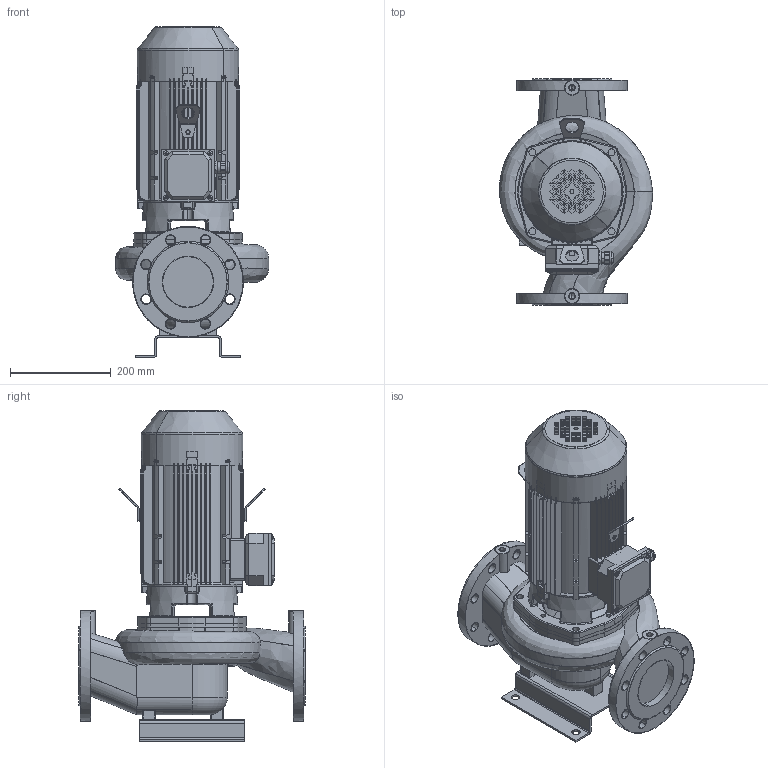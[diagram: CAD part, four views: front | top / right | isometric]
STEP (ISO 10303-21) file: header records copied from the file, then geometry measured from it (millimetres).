
FILE_DESCRIPTION(('STEP AP214'),'1');
FILE_NAME('export.stp','2018-08-14T10:40:46',(' '),(' '),'Spatial InterOp 3D',' ',' ');
FILE_SCHEMA(('AUTOMOTIVE_DESIGN { 1 0 10303 214 1 1 1 1 }'));
Length unit declared in the file: millimetre
Products named in the file (21): 160027; 160005; V_MKP100-2_F19; 160141; 160137; 160138; 160139; 160140; Koura_Ale_M5; Plug_Blind_M20; Sealing_Plug_M20; DIN_7985-M5X8; DIN_7985-M5X12; 160060___; 160059___; 160136; 160134; W_AL11024220KP100; V_TLL65AB80A1102; V_PPAL1102; V_JALKA35973
Assembly tree (24 placements, depth 4):
  W_AL11024220KP100
    V_MKP100-2_F19
      160027
        160005
      160141
        160137
        160138
        160139
        160140
        Koura_Ale_M5
        Plug_Blind_M20
        Sealing_Plug_M20
        DIN_7985-M5X8
        DIN_7985-M5X12  x4
      160060___
      160059___
      160136
      160134  x2
    V_TLL65AB80A1102
    V_PPAL1102
    V_JALKA35973
Bounding box: 304.07 x 450 x 657 mm (x, y, z)
Volume: 3319130.8 mm3; surface area: 2442962.6 mm2
Topology: 21 solids, 22 shells, 2677 faces, 7257 edges, 4613 vertices
Faces by surface type: plane 1128, cylinder 890, torus 241, bspline 232, cone 163, sphere 15, offset 8
Entity records: 108568 total; most frequent: CARTESIAN_POINT 37894, ORIENTED_EDGE 13954, DIRECTION 12955, EDGE_CURVE 6979, AXIS2_PLACEMENT_3D 4872, VERTEX_POINT 4469, LINE 3211, VECTOR 3211
